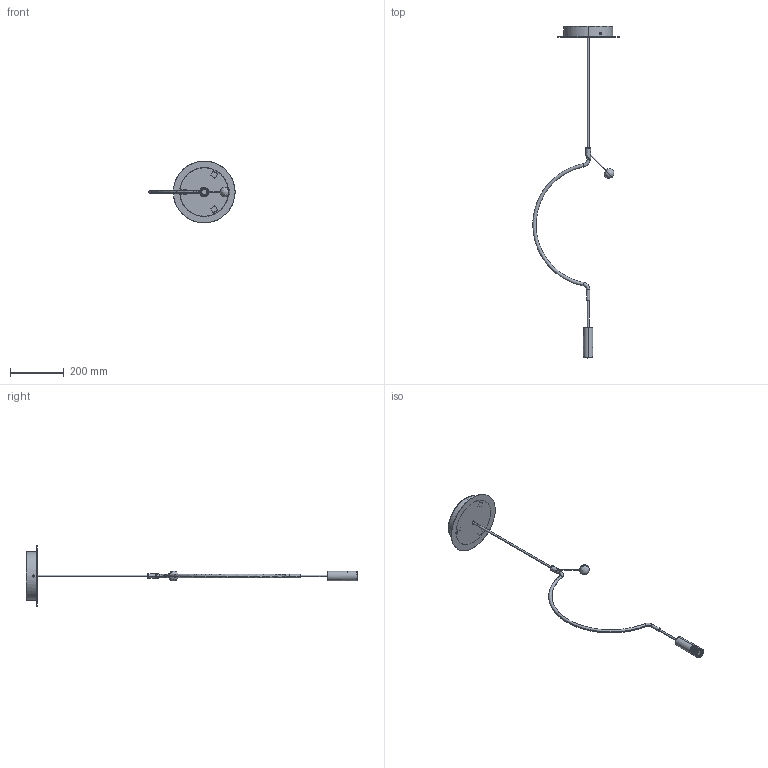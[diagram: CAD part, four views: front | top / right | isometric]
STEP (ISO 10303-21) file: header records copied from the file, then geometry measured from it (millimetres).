
FILE_DESCRIPTION (( 'STEP AP203' ), '1' );
FILE_NAME ('SPLILIAIP1XXXXX.STEP', '2025-11-14T18:27:21', ( '' ), ( '' ), 'SwSTEP 2.0', 'SolidWorks 2024', '' );
FILE_SCHEMA (( 'CONFIG_CONTROL_DESIGN' ));
Length unit declared in the file: millimetre
Products named in the file (19): 1.0C.AXO01.LS01.01.IGS.IGS; 1.0C.AXO01.LS01.50.IGS.IGS; Dado Autoagganciante PS_DADO AUTOAGGANCIANTE PS M4.IGS_1.IGS; Faston Maschio ''A''_CONNETTORE AD INNESTO MASCHIO 45°.IGS_1.IGS; SPLILIAIP1XXXXX; Grani Acciaio_GRANO M4x0.7 L.4.IGS_1.IGS; 1.0C.AXO01.LS06.05.IGS_1.IGS; 1.0C.AXO01.LS01.11.IGS_1.IGS; 1.0C.AXO01.LS01.03.IGS_1.IGS; Dado Esagonale_DADO M4.IGS_1.IGS; SPLILIAIP1XXXLED-3D.IGS; Viti con Testa a Bottone e Cava Esagonale_VITE TBCE M4L.12,.IGS_1.IGS; Rondelle Tornite Sacla.IGS_1.IGS; 1.0C.AXO01.LS01.13.IGS_1.IGS; 1.0C.AXO01.LS01.08.IGS_1.IGS; 1.0C.AXO01.LS01.06.IGS_1.IGS; 1.0C.AXO01.LS01.14.IGS_1.IGS; 1.0C.AXO01.LS01.02.IGS.IGS; 1.0C.AXO01.LS01.12.IGS_1.IGS
Assembly tree (24 placements, depth 3):
  SPLILIAIP1XXXXX
    SPLILIAIP1XXXLED-3D.IGS
      Viti con Testa a Bottone e Cava Esagonale_VITE TBCE M4L.12,.IGS_1.IGS  x3
      Dado Esagonale_DADO M4.IGS_1.IGS
      1.0C.AXO01.LS01.14.IGS_1.IGS
      1.0C.AXO01.LS01.11.IGS_1.IGS
      1.0C.AXO01.LS06.05.IGS_1.IGS  x3
      Dado Autoagganciante PS_DADO AUTOAGGANCIANTE PS M4.IGS_1.IGS  x3
      Faston Maschio ''A''_CONNETTORE AD INNESTO MASCHIO 45°.IGS_1.IGS
      Grani Acciaio_GRANO M4x0.7 L.4.IGS_1.IGS
      1.0C.AXO01.LS01.01.IGS.IGS
      1.0C.AXO01.LS01.50.IGS.IGS
      1.0C.AXO01.LS01.12.IGS_1.IGS
      1.0C.AXO01.LS01.03.IGS_1.IGS
      1.0C.AXO01.LS01.08.IGS_1.IGS
      1.0C.AXO01.LS01.06.IGS_1.IGS
      1.0C.AXO01.LS01.13.IGS_1.IGS
      Rondelle Tornite Sacla.IGS_1.IGS
      1.0C.AXO01.LS01.02.IGS.IGS
Bounding box: 320.5 x 1234.71 x 230 mm (x, y, z)
Volume: 264954.5 mm3; surface area: 306418.1 mm2
Topology: 29 solids, 29 shells, 503 faces, 1141 edges, 714 vertices
Faces by surface type: bspline 503
Entity records: 22446 total; most frequent: CARTESIAN_POINT 14830, ORIENTED_EDGE 1802, EDGE_CURVE 901, B_SPLINE_CURVE_WITH_KNOTS 593, VERTEX_POINT 570, EDGE_LOOP 461, ADVANCED_FACE 395, FACE_OUTER_BOUND 395
